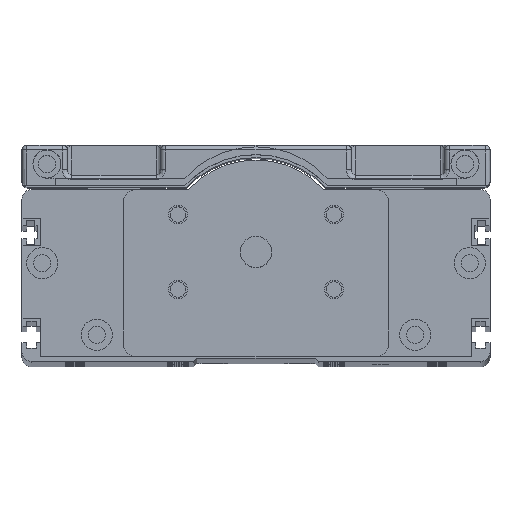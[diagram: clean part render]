
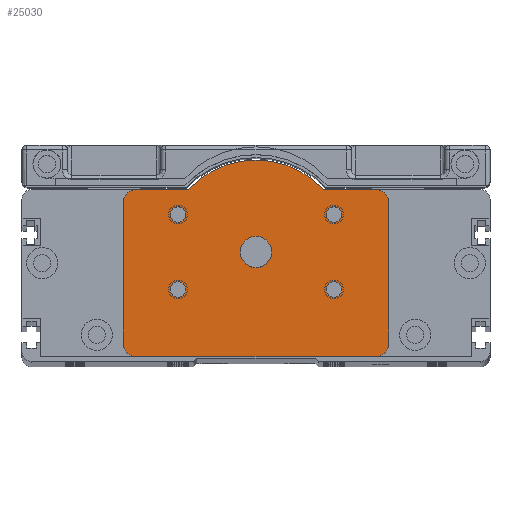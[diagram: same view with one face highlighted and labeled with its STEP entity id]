
A CAD part, top view. The second image highlights one B-rep face of the part: STEP entity #25030.
In plain terms, the highlighted planar face has unit normal (0, 0, 1).
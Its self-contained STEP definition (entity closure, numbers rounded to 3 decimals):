
#23672=CARTESIAN_POINT('',(38.5,49.5,29.));
#23673=DIRECTION('',(0.,0.,1.));
#23674=DIRECTION('',(1.,0.,0.));
#23675=AXIS2_PLACEMENT_3D('',#23672,#23673,#23674);
#23681=CARTESIAN_POINT('',(38.5,4.,29.));
#23682=DIRECTION('',(0.,0.,1.));
#23683=DIRECTION('',(0.,-1.,0.));
#23684=AXIS2_PLACEMENT_3D('',#23681,#23682,#23683);
#23833=CARTESIAN_POINT('',(-38.5,49.5,29.));
#23834=DIRECTION('',(0.,0.,1.));
#23835=DIRECTION('',(0.,1.,0.));
#23836=AXIS2_PLACEMENT_3D('',#23833,#23834,#23835);
#23847=DIRECTION('',(0.,1.,0.));
#23848=VECTOR('',#23847,45.5);
#23849=CARTESIAN_POINT('',(42.5,4.,29.));
#23850=LINE('',#23849,#23848);
#23851=DIRECTION('',(1.,0.,0.));
#23852=VECTOR('',#23851,77.);
#23853=CARTESIAN_POINT('',(-38.5,0.,29.));
#23854=LINE('',#23853,#23852);
#23855=DIRECTION('',(0.,1.,0.));
#23856=VECTOR('',#23855,45.5);
#23857=CARTESIAN_POINT('',(-42.5,4.,29.));
#23858=LINE('',#23857,#23856);
#23859=DIRECTION('',(-1.,0.,0.));
#23860=VECTOR('',#23859,16.815);
#23861=CARTESIAN_POINT('',(-21.685,53.5,29.));
#23862=LINE('',#23861,#23860);
#23863=CARTESIAN_POINT('',(0.,33.5,29.));
#23864=DIRECTION('',(0.,0.,1.));
#23865=DIRECTION('',(0.735,0.678,0.));
#23866=AXIS2_PLACEMENT_3D('',#23863,#23864,#23865);
#23868=DIRECTION('',(-1.,0.,0.));
#23869=VECTOR('',#23868,16.815);
#23870=CARTESIAN_POINT('',(38.5,53.5,29.));
#23871=LINE('',#23870,#23869);
#23872=CARTESIAN_POINT('',(0.,33.5,29.));
#23873=DIRECTION('',(0.,0.,1.));
#23874=DIRECTION('',(1.,0.,0.));
#23875=AXIS2_PLACEMENT_3D('',#23872,#23873,#23874);
#23877=CARTESIAN_POINT('',(0.,33.5,29.));
#23878=DIRECTION('',(0.,0.,1.));
#23879=DIRECTION('',(-1.,0.,0.));
#23880=AXIS2_PLACEMENT_3D('',#23877,#23878,#23879);
#23882=CARTESIAN_POINT('',(25.,45.5,29.));
#23883=DIRECTION('',(0.,0.,-1.));
#23884=DIRECTION('',(-1.,0.,0.));
#23885=AXIS2_PLACEMENT_3D('',#23882,#23883,#23884);
#23887=CARTESIAN_POINT('',(25.,45.5,29.));
#23888=DIRECTION('',(0.,0.,-1.));
#23889=DIRECTION('',(1.,0.,0.));
#23890=AXIS2_PLACEMENT_3D('',#23887,#23888,#23889);
#23892=CARTESIAN_POINT('',(25.,21.5,29.));
#23893=DIRECTION('',(0.,0.,1.));
#23894=DIRECTION('',(-1.,0.,0.));
#23895=AXIS2_PLACEMENT_3D('',#23892,#23893,#23894);
#23897=CARTESIAN_POINT('',(25.,21.5,29.));
#23898=DIRECTION('',(0.,0.,1.));
#23899=DIRECTION('',(1.,0.,0.));
#23900=AXIS2_PLACEMENT_3D('',#23897,#23898,#23899);
#23902=CARTESIAN_POINT('',(-25.,45.5,29.));
#23903=DIRECTION('',(0.,0.,1.));
#23904=DIRECTION('',(1.,0.,0.));
#23905=AXIS2_PLACEMENT_3D('',#23902,#23903,#23904);
#23907=CARTESIAN_POINT('',(-25.,45.5,29.));
#23908=DIRECTION('',(0.,0.,1.));
#23909=DIRECTION('',(-1.,0.,0.));
#23910=AXIS2_PLACEMENT_3D('',#23907,#23908,#23909);
#23912=CARTESIAN_POINT('',(-25.,21.5,29.));
#23913=DIRECTION('',(0.,0.,-1.));
#23914=DIRECTION('',(1.,0.,0.));
#23915=AXIS2_PLACEMENT_3D('',#23912,#23913,#23914);
#23917=CARTESIAN_POINT('',(-25.,21.5,29.));
#23918=DIRECTION('',(0.,0.,-1.));
#23919=DIRECTION('',(-1.,0.,0.));
#23920=AXIS2_PLACEMENT_3D('',#23917,#23918,#23919);
#23935=CARTESIAN_POINT('',(-38.5,4.,29.));
#23936=DIRECTION('',(0.,0.,1.));
#23937=DIRECTION('',(-1.,0.,0.));
#23938=AXIS2_PLACEMENT_3D('',#23935,#23936,#23937);
#24164=CARTESIAN_POINT('',(21.685,53.5,29.));
#24165=CARTESIAN_POINT('',(-21.685,53.5,29.));
#24166=VERTEX_POINT('',#24164);
#24167=VERTEX_POINT('',#24165);
#24212=CARTESIAN_POINT('',(38.5,53.5,29.));
#24214=VERTEX_POINT('',#24212);
#24216=CARTESIAN_POINT('',(42.5,49.5,29.));
#24218=VERTEX_POINT('',#24216);
#24221=CARTESIAN_POINT('',(38.5,0.,29.));
#24223=VERTEX_POINT('',#24221);
#24224=CARTESIAN_POINT('',(42.5,4.,29.));
#24225=VERTEX_POINT('',#24224);
#24229=CARTESIAN_POINT('',(-38.5,53.5,29.));
#24231=VERTEX_POINT('',#24229);
#24232=CARTESIAN_POINT('',(-42.5,49.5,29.));
#24233=VERTEX_POINT('',#24232);
#24236=CARTESIAN_POINT('',(-38.5,0.,29.));
#24238=VERTEX_POINT('',#24236);
#24240=CARTESIAN_POINT('',(-42.5,4.,29.));
#24242=VERTEX_POINT('',#24240);
#24252=CARTESIAN_POINT('',(22.5,45.5,29.));
#24253=CARTESIAN_POINT('',(27.5,45.5,29.));
#24254=VERTEX_POINT('',#24252);
#24255=VERTEX_POINT('',#24253);
#24260=CARTESIAN_POINT('',(22.5,21.5,29.));
#24261=CARTESIAN_POINT('',(27.5,21.5,29.));
#24262=VERTEX_POINT('',#24260);
#24263=VERTEX_POINT('',#24261);
#24268=CARTESIAN_POINT('',(-22.5,45.5,29.));
#24269=CARTESIAN_POINT('',(-27.5,45.5,29.));
#24270=VERTEX_POINT('',#24268);
#24271=VERTEX_POINT('',#24269);
#24276=CARTESIAN_POINT('',(-22.5,21.5,29.));
#24277=CARTESIAN_POINT('',(-27.5,21.5,29.));
#24278=VERTEX_POINT('',#24276);
#24279=VERTEX_POINT('',#24277);
#24400=CARTESIAN_POINT('',(5.,33.5,29.));
#24401=CARTESIAN_POINT('',(-5.,33.5,29.));
#24402=VERTEX_POINT('',#24400);
#24403=VERTEX_POINT('',#24401);
#24980=CARTESIAN_POINT('',(0.,0.,29.));
#24981=DIRECTION('',(0.,0.,1.));
#24982=DIRECTION('',(1.,0.,0.));
#24983=AXIS2_PLACEMENT_3D('',#24980,#24981,#24982);
#24984=PLANE('',#24983);
#24985=ORIENTED_EDGE('',*,*,#24720,.F.);
#24986=ORIENTED_EDGE('',*,*,#24734,.F.);
#24987=ORIENTED_EDGE('',*,*,#24746,.F.);
#24988=ORIENTED_EDGE('',*,*,#24764,.F.);
#24990=ORIENTED_EDGE('',*,*,#24989,.F.);
#24992=ORIENTED_EDGE('',*,*,#24991,.T.);
#24993=ORIENTED_EDGE('',*,*,#24972,.F.);
#24994=ORIENTED_EDGE('',*,*,#24706,.F.);
#24996=ORIENTED_EDGE('',*,*,#24995,.F.);
#24997=ORIENTED_EDGE('',*,*,#24674,.F.);
#24998=EDGE_LOOP('',(#24985,#24986,#24987,#24988,#24990,#24992,#24993,#24994,
#24996,#24997));
#24999=FACE_OUTER_BOUND('',#24998,.F.);
#25001=ORIENTED_EDGE('',*,*,#25000,.T.);
#25003=ORIENTED_EDGE('',*,*,#25002,.T.);
#25004=EDGE_LOOP('',(#25001,#25003));
#25005=FACE_BOUND('',#25004,.F.);
#25007=ORIENTED_EDGE('',*,*,#25006,.F.);
#25009=ORIENTED_EDGE('',*,*,#25008,.F.);
#25010=EDGE_LOOP('',(#25007,#25009));
#25011=FACE_BOUND('',#25010,.F.);
#25013=ORIENTED_EDGE('',*,*,#25012,.T.);
#25015=ORIENTED_EDGE('',*,*,#25014,.T.);
#25016=EDGE_LOOP('',(#25013,#25015));
#25017=FACE_BOUND('',#25016,.F.);
#25019=ORIENTED_EDGE('',*,*,#25018,.T.);
#25021=ORIENTED_EDGE('',*,*,#25020,.T.);
#25022=EDGE_LOOP('',(#25019,#25021));
#25023=FACE_BOUND('',#25022,.F.);
#25025=ORIENTED_EDGE('',*,*,#25024,.F.);
#25027=ORIENTED_EDGE('',*,*,#25026,.F.);
#25028=EDGE_LOOP('',(#25025,#25027));
#25029=FACE_BOUND('',#25028,.F.);
#25030=ADVANCED_FACE('',(#24999,#25005,#25011,#25017,#25023,#25029),#24984,.T.);
#23676=CIRCLE('',#23675,4.);
#23685=CIRCLE('',#23684,4.);
#23837=CIRCLE('',#23836,4.);
#23867=CIRCLE('',#23866,29.5);
#23876=CIRCLE('',#23875,5.);
#23881=CIRCLE('',#23880,5.);
#23886=CIRCLE('',#23885,2.5);
#23891=CIRCLE('',#23890,2.5);
#23896=CIRCLE('',#23895,2.5);
#23901=CIRCLE('',#23900,2.5);
#23906=CIRCLE('',#23905,2.5);
#23911=CIRCLE('',#23910,2.5);
#23916=CIRCLE('',#23915,2.5);
#23921=CIRCLE('',#23920,2.5);
#23939=CIRCLE('',#23938,4.);
#24674=EDGE_CURVE('',#24214,#24166,#23871,.T.);
#24706=EDGE_CURVE('',#24167,#24231,#23862,.T.);
#24720=EDGE_CURVE('',#24218,#24214,#23676,.T.);
#24734=EDGE_CURVE('',#24225,#24218,#23850,.T.);
#24746=EDGE_CURVE('',#24223,#24225,#23685,.T.);
#24764=EDGE_CURVE('',#24238,#24223,#23854,.T.);
#24972=EDGE_CURVE('',#24231,#24233,#23837,.T.);
#24989=EDGE_CURVE('',#24242,#24238,#23939,.T.);
#24991=EDGE_CURVE('',#24242,#24233,#23858,.T.);
#24995=EDGE_CURVE('',#24166,#24167,#23867,.T.);
#25000=EDGE_CURVE('',#24402,#24403,#23876,.T.);
#25002=EDGE_CURVE('',#24403,#24402,#23881,.T.);
#25006=EDGE_CURVE('',#24254,#24255,#23886,.T.);
#25008=EDGE_CURVE('',#24255,#24254,#23891,.T.);
#25012=EDGE_CURVE('',#24262,#24263,#23896,.T.);
#25014=EDGE_CURVE('',#24263,#24262,#23901,.T.);
#25018=EDGE_CURVE('',#24270,#24271,#23906,.T.);
#25020=EDGE_CURVE('',#24271,#24270,#23911,.T.);
#25024=EDGE_CURVE('',#24278,#24279,#23916,.T.);
#25026=EDGE_CURVE('',#24279,#24278,#23921,.T.);
